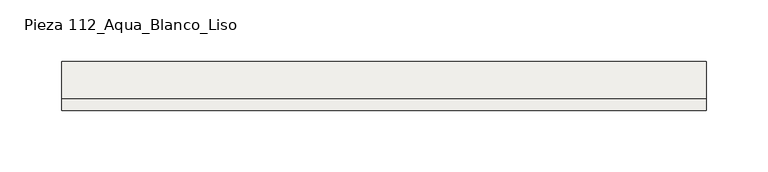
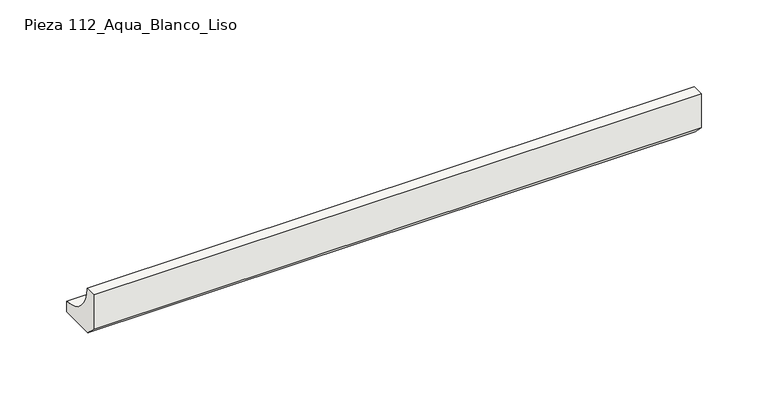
"""IFC4 building model written with IfcOpenShell, lengths in millimetres: slab geometry, ROSA GRES_112 : Pieza 112_Aqua_Blanco_Liso."""

from ifc_helpers import new_model, si_unit, point, frame, frame_2d, origin, place, context, project, spatial, polyline, circle_curve, trimmed, segment, composite_curve, outline, extrude, source, transform, mapped, element, save


def pieza_112_aqua_blanco_liso_e2e24b9b(model_context):
    return source(origin(), model_context, "Body", "SweptSolid", [
        extrude(outline(composite_curve([segment(polyline([(-9.9734114, 8.7114978), (-9.9734114, 40.0), (0.0, 40.0)]), True, "CONTINUOUS"), segment(trimmed(circle_curve(frame_2d((30.0221432, 39.9955547)), 30.0221435), [point((0.0, 40.0))], [point((30.0265886, 9.9734114))], True, "CARTESIAN"), True, "CONTINUOUS"), segment(polyline([(30.0265886, 9.9734114), (30.0265886, 0.0), (-1.2619137, 0.0), (-9.9734114, 8.7114978)]), True, "CONTINUOUS")], self_intersect=False)), frame((0.0, 0.0, 0.0), z_axis=(1.0, 0.0, 0.0), x_axis=(0.0, 1.0, 0.0)), (0.0, 0.0, 1.0), 523.4895879),
    ])


if __name__ == "__main__":
    model = new_model("IFC4")
    model_context = context("Model", 3, world=origin())
    ifc_project = project(units=[si_unit("LENGTHUNIT", "METRE", prefix="MILLI")], contexts=[model_context])
    site = spatial("IfcSite", under=ifc_project)
    building = spatial("IfcBuilding", under=site)
    placement = place(None, origin())
    pieza_112_aqua_blanco_liso_shape = pieza_112_aqua_blanco_liso_e2e24b9b(model_context)
    element("IfcSlab", 1, ObjectType="ROSA GRES_112 : Pieza 112_Aqua_Blanco_Liso", at=placement, inside=building, context=model_context, shape_type="MappedRepresentation", body=[
        mapped(pieza_112_aqua_blanco_liso_shape, transform((0.0, 0.0, 0.0), x_axis=(1.0, 0.0, 0.0), y_axis=(0.0, 1.0, 0.0), z_axis=(0.0, 0.0, 1.0))),
    ])
    save(model, "model.ifc")
